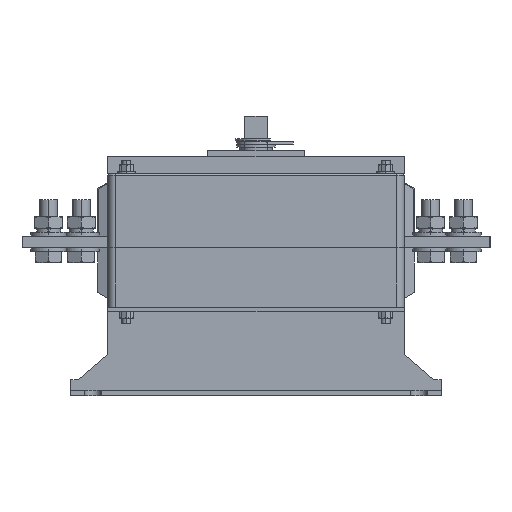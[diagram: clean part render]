
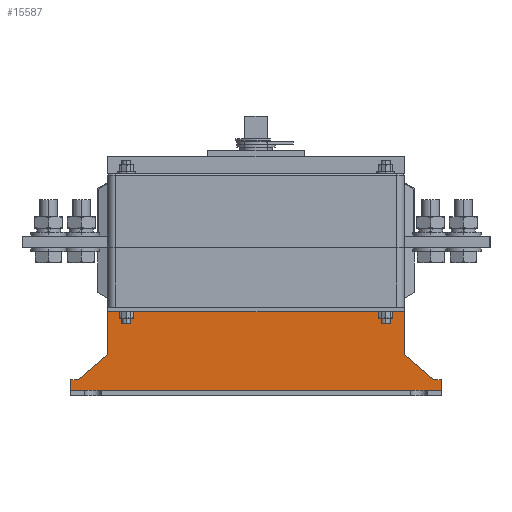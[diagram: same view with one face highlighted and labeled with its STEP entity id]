
A CAD part, left-side view. The second image highlights one B-rep face of the part: STEP entity #15587.
In plain terms, the highlighted planar face has unit normal (-1, 0, 0) as drawn and (0, 0, 1) by its records, which use the part's own axes.
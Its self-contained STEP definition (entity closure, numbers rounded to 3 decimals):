
#15070=DIRECTION('',(0.,-1.,0.));
#15071=VECTOR('',#15070,7.);
#15072=CARTESIAN_POINT('',(-125.,11.,-11.));
#15073=LINE('',#15072,#15071);
#15078=DIRECTION('',(-1.,0.,0.));
#15079=VECTOR('',#15078,5.);
#15080=CARTESIAN_POINT('',(-120.,11.,-11.));
#15081=LINE('',#15080,#15079);
#15086=DIRECTION('',(1.,0.,0.));
#15087=VECTOR('',#15086,200.);
#15088=CARTESIAN_POINT('',(-100.,57.,-11.));
#15089=LINE('',#15088,#15087);
#15103=DIRECTION('',(0.,-1.,0.));
#15104=VECTOR('',#15103,7.);
#15105=CARTESIAN_POINT('',(125.,11.,-11.));
#15106=LINE('',#15105,#15104);
#15234=DIRECTION('',(0.,1.,0.));
#15235=VECTOR('',#15234,29.);
#15236=CARTESIAN_POINT('',(100.,28.,-11.));
#15237=LINE('',#15236,#15235);
#15299=DIRECTION('',(0.,1.,0.));
#15300=VECTOR('',#15299,29.);
#15301=CARTESIAN_POINT('',(-100.,28.,-11.));
#15302=LINE('',#15301,#15300);
#15303=DIRECTION('',(-0.762,-0.648,0.));
#15304=VECTOR('',#15303,26.249);
#15305=CARTESIAN_POINT('',(-100.,28.,-11.));
#15306=LINE('',#15305,#15304);
#15311=DIRECTION('',(-0.762,0.648,0.));
#15312=VECTOR('',#15311,26.249);
#15313=CARTESIAN_POINT('',(120.,11.,-11.));
#15314=LINE('',#15313,#15312);
#15319=DIRECTION('',(-1.,0.,0.));
#15320=VECTOR('',#15319,5.);
#15321=CARTESIAN_POINT('',(125.,11.,-11.));
#15322=LINE('',#15321,#15320);
#15353=DIRECTION('',(1.,0.,0.));
#15354=VECTOR('',#15353,250.);
#15355=CARTESIAN_POINT('',(-125.,4.,-11.));
#15356=LINE('',#15355,#15354);
#15394=CARTESIAN_POINT('',(125.,4.,-11.));
#15396=VERTEX_POINT('',#15394);
#15397=CARTESIAN_POINT('',(125.,11.,-11.));
#15398=VERTEX_POINT('',#15397);
#15399=CARTESIAN_POINT('',(120.,11.,-11.));
#15400=VERTEX_POINT('',#15399);
#15401=CARTESIAN_POINT('',(100.,28.,-11.));
#15402=VERTEX_POINT('',#15401);
#15403=CARTESIAN_POINT('',(100.,57.,-11.));
#15404=VERTEX_POINT('',#15403);
#15405=CARTESIAN_POINT('',(-100.,57.,-11.));
#15406=VERTEX_POINT('',#15405);
#15407=CARTESIAN_POINT('',(-100.,28.,-11.));
#15408=VERTEX_POINT('',#15407);
#15409=CARTESIAN_POINT('',(-120.,11.,-11.));
#15410=VERTEX_POINT('',#15409);
#15411=CARTESIAN_POINT('',(-125.,11.,-11.));
#15412=VERTEX_POINT('',#15411);
#15414=CARTESIAN_POINT('',(-125.,4.,-11.));
#15416=VERTEX_POINT('',#15414);
#15562=CARTESIAN_POINT('',(-125.,57.,-11.));
#15563=DIRECTION('',(0.,0.,-1.));
#15564=DIRECTION('',(0.,-1.,0.));
#15565=AXIS2_PLACEMENT_3D('',#15562,#15563,#15564);
#15566=PLANE('',#15565);
#15568=ORIENTED_EDGE('',*,*,#15567,.T.);
#15570=ORIENTED_EDGE('',*,*,#15569,.F.);
#15571=ORIENTED_EDGE('',*,*,#15537,.F.);
#15572=ORIENTED_EDGE('',*,*,#15553,.F.);
#15574=ORIENTED_EDGE('',*,*,#15573,.F.);
#15576=ORIENTED_EDGE('',*,*,#15575,.T.);
#15578=ORIENTED_EDGE('',*,*,#15577,.T.);
#15580=ORIENTED_EDGE('',*,*,#15579,.F.);
#15582=ORIENTED_EDGE('',*,*,#15581,.F.);
#15584=ORIENTED_EDGE('',*,*,#15583,.F.);
#15585=EDGE_LOOP('',(#15568,#15570,#15571,#15572,#15574,#15576,#15578,#15580,
#15582,#15584));
#15586=FACE_OUTER_BOUND('',#15585,.F.);
#15587=ADVANCED_FACE('',(#15586),#15566,.F.);
#15537=EDGE_CURVE('',#15412,#15416,#15073,.T.);
#15553=EDGE_CURVE('',#15410,#15412,#15081,.T.);
#15567=EDGE_CURVE('',#15398,#15396,#15106,.T.);
#15569=EDGE_CURVE('',#15416,#15396,#15356,.T.);
#15573=EDGE_CURVE('',#15408,#15410,#15306,.T.);
#15575=EDGE_CURVE('',#15408,#15406,#15302,.T.);
#15577=EDGE_CURVE('',#15406,#15404,#15089,.T.);
#15579=EDGE_CURVE('',#15402,#15404,#15237,.T.);
#15581=EDGE_CURVE('',#15400,#15402,#15314,.T.);
#15583=EDGE_CURVE('',#15398,#15400,#15322,.T.);
